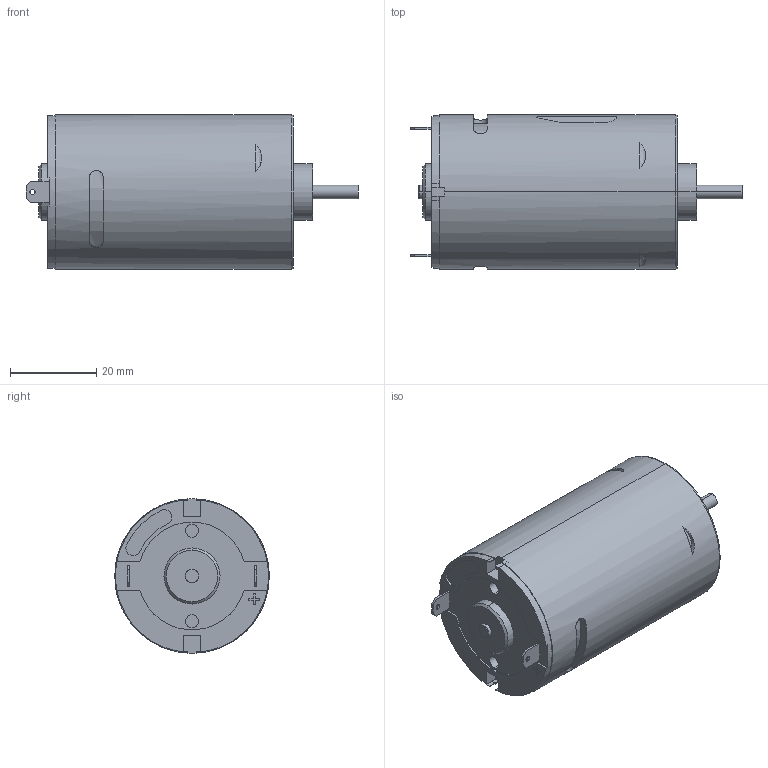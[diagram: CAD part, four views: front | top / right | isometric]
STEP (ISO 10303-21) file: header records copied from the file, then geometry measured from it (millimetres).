
FILE_DESCRIPTION (( 'STEP AP214' ), '1' );
FILE_NAME ('RM91.STEP', '2014-05-19T10:34:16', ( '' ), ( '' ), 'SwSTEP 2.0', 'SolidWorks 2013', '' );
FILE_SCHEMA (( 'AUTOMOTIVE_DESIGN' ));
Length unit declared in the file: millimetre
Products named in the file (1): RM91
Bounding box: 77 x 35.8 x 35.8 mm (x, y, z)
Volume: 57342.6 mm3; surface area: 9595.1 mm2
Topology: 1 solids, 1 shells, 175 faces, 444 edges, 290 vertices
Faces by surface type: plane 87, cylinder 69, cone 10, bspline 7, torus 2
Entity records: 6164 total; most frequent: CARTESIAN_POINT 1329, DIRECTION 908, ORIENTED_EDGE 880, EDGE_CURVE 440, AXIS2_PLACEMENT_3D 323, VERTEX_POINT 290, VECTOR 262, LINE 262
